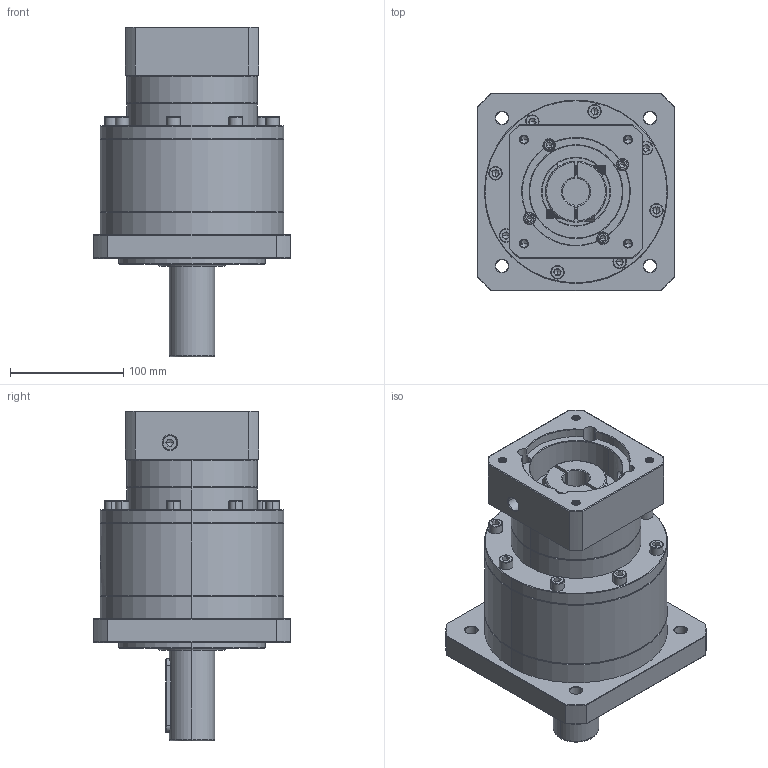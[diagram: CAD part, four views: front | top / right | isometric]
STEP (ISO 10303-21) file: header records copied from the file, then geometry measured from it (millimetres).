
FILE_DESCRIPTION (( 'STEP AP214' ), '1' );
FILE_NAME ('ZF160A-D40-L2-P2-24-95-130-M8.step', '2023-09-03T07:54:56', ( '' ), ( '' ), 'SwSTEP 2.0', 'SolidWorks 2016', '' );
FILE_SCHEMA (( 'AUTOMOTIVE_DESIGN' ));
Length unit declared in the file: millimetre
Products named in the file (1): ZF160A-D40-L2-P2-24-95-130-M8
Bounding box: 175 x 175 x 291.7 mm (x, y, z)
Volume: 3590094.8 mm3; surface area: 265828.9 mm2
Topology: 6 solids, 6 shells, 2432 faces, 6423 edges, 4114 vertices
Faces by surface type: plane 1119, cylinder 490, bspline 405, cone 360, torus 58
Entity records: 132082 total; most frequent: CARTESIAN_POINT 50343, ORIENTED_EDGE 12738, DIRECTION 9701, EDGE_CURVE 6369, VERTEX_POINT 4114, VECTOR 3381, LINE 3381, AXIS2_PLACEMENT_3D 3160
